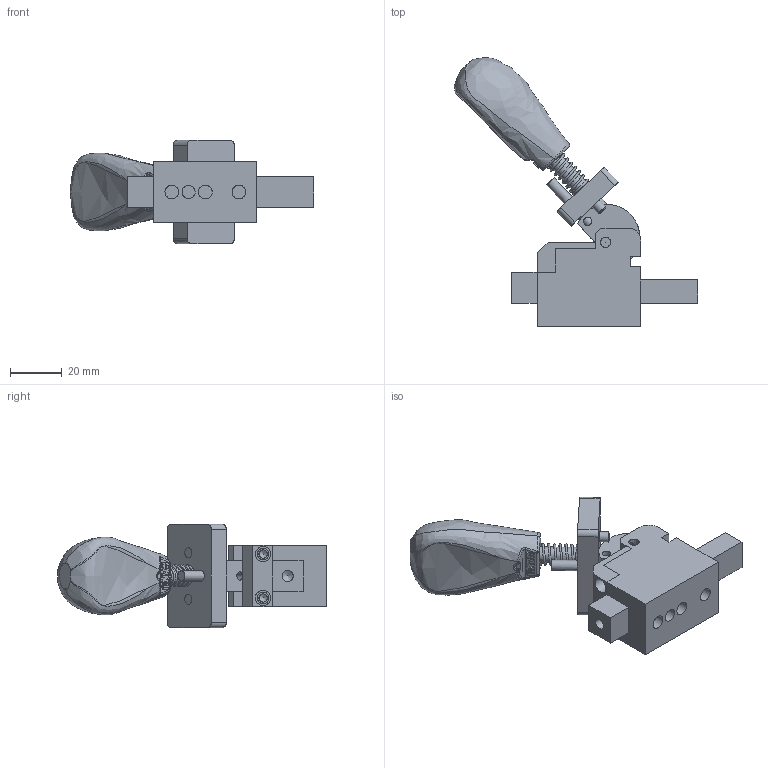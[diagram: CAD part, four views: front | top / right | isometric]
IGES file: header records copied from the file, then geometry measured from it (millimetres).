
Global section: file name: KCP-22ST-UNCLAMP; native system: Autodesk Inventor 2019; preprocessor: unknown; author: 桶田 勝弘,,  11,0; organization: 20171008.235212; date: 20240514.155308; units: millimetre
Bounding box: 94.35 x 104.1 x 40 mm (x, y, z)
Volume: 59772 mm3; surface area: 26633.9 mm2
Topology: 11 solids, 11 shells, 250 faces, 671 edges, 448 vertices
Faces by surface type: bspline 250
